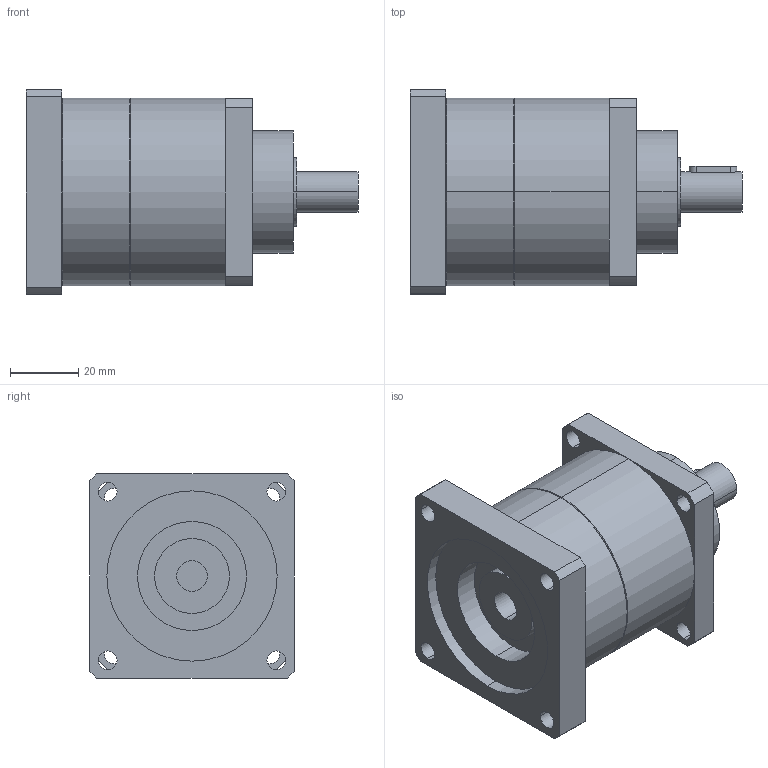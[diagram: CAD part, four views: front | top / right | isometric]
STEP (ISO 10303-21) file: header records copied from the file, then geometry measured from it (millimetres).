
FILE_DESCRIPTION(('CoCreate Modeling STEP Export'),'2;1');
FILE_NAME('GPT55_ig-3-4-5-7-10_12_B5A_9_P20.stp','2014-08-25T14:35:55',(''),(''),'CoCreate Modeling STEP processor for AP214 (Solid Model)','CoCreate Modeling 16.00C 25-Feb-2009 (C) Parametric Technology GmbH','');
FILE_SCHEMA(('AUTOMOTIVE_DESIGN { 1 0 10303 214 1 1 1 1 }'));
Length unit declared in the file: millimetre
Products named in the file (2): GPT55_ig-3-4-5-7-10_12_B5A_9_P20
Assembly tree (1 placements, depth 2):
  GPT55_ig-3-4-5-7-10_12_B5A_9_P20
    GPT55_ig-3-4-5-7-10_12_B5A_9_P20
Bounding box: 97.5 x 60 x 60 mm (x, y, z)
Volume: 175761.7 mm3; surface area: 26360.7 mm2
Topology: 1 solids, 1 shells, 77 faces, 204 edges, 139 vertices
Faces by surface type: cylinder 46, plane 27, cone 4
Entity records: 2515 total; most frequent: CARTESIAN_POINT 710, ORIENTED_EDGE 408, DIRECTION 318, EDGE_CURVE 204, VERTEX_POINT 139, AXIS2_PLACEMENT_3D 117, EDGE_LOOP 103, VECTOR 84
